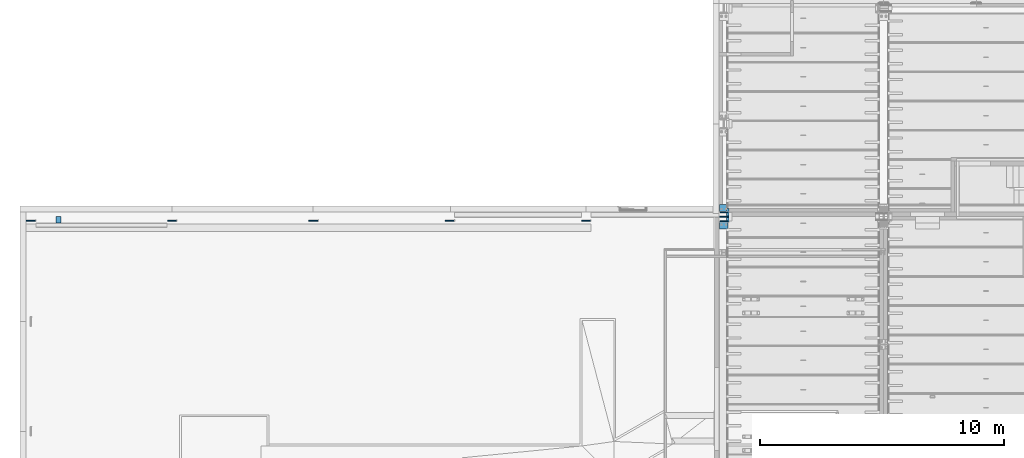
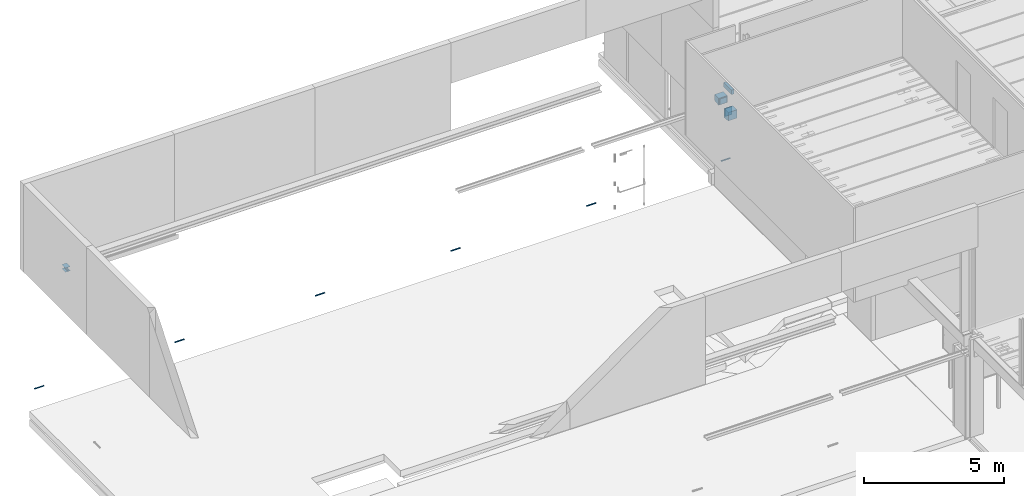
# One storey, part 23 of 230: 12 beams.
"""IFC4X3_ADD2 building model written with IfcOpenShell, lengths in millimetres."""

from ifc_helpers import new_model, entity, si_unit, direction, frame, frame_2d, origin_with_axes, place, context, subcontext, project, spatial, rectangle, hollow_circle, i_section, extrude, material, element, save


model = new_model("IFC4X3_ADD2")

# Units and contexts
model_context = context("Model", 3, precision=1e-05, world=origin_with_axes(), true_north=direction((0.0, 1.0)))
body_context = subcontext(model_context, "Body", "Model", "MODEL_VIEW")
ifc_project = project(units=[si_unit("LENGTHUNIT", "METRE", prefix="MILLI"), si_unit("AREAUNIT", "SQUARE_METRE"), si_unit("VOLUMEUNIT", "CUBIC_METRE"), si_unit("PLANEANGLEUNIT", "RADIAN"), si_unit("TIMEUNIT", "SECOND"), si_unit("MASSUNIT", "GRAM")], contexts=[model_context])

# Site, building, storey
site_placement = place(None, origin_with_axes())
site = spatial("IfcSite", under=ifc_project, at=site_placement, Name="Site", CompositionType="ELEMENT")
building_placement = place(site_placement, origin_with_axes())
building = spatial("IfcBuilding", under=site, at=building_placement, Name="IFC Building Story")
storey_placement = place(building_placement, origin_with_axes())
storey = spatial("IfcBuildingStorey", under=building, at=storey_placement, Name="ETAGE 00 (0)", Elevation=0.0)

# Beams
ifc_material_1 = material(Name="STEEL/Accessory_C50/60 64192")
beam_1_placement = place(storey_placement, frame((33581.188, 18150.0, 3540.0), z_axis=(-1.0, 0.0, 0.0), x_axis=(0.0, 0.0, 1.0)))
element("IfcBeam", 1, at=beam_1_placement, inside=storey, material=ifc_material_1, Name="BEK1", ObjectType="CORBEL300-300-260", context=body_context, shape_type="SweptSolid", body=[
    extrude(entity("IfcTrapeziumProfileDef", "AREA", None, entity("IfcAxis2Placement2D", entity("IfcCartesianPoint", [0.0, 5.95523630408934e-12]), entity("IfcDirection", [1.0, 0.0])), 300.0, 260.0, 300.0, 40.0), origin_with_axes(), (0.0, 0.0, 1.0), 360.0),
])
beam_2_placement = place(storey_placement, frame((33221.188, 17460.0, 3290.0), z_axis=(1.0, 0.0, 0.0), x_axis=(0.0, 0.0, 1.0)))
element("IfcBeam", 2, at=beam_2_placement, inside=storey, material=ifc_material_1, Name="BEK1", ObjectType="CORBEL400-300-360", context=body_context, shape_type="SweptSolid", body=[
    extrude(entity("IfcTrapeziumProfileDef", "AREA", None, entity("IfcAxis2Placement2D", entity("IfcCartesianPoint", [0.0, 5.95523630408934e-12]), entity("IfcDirection", [1.0, 0.0])), 400.0, 360.0, 300.0, 40.0), origin_with_axes(), (0.0, 0.0, 1.0), 360.0),
])
ifc_material_2 = material(Name="BS_28_Métal")
beam_3_placement = place(storey_placement, frame((6090.189478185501, 17550.01425584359, 6000.000000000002), z_axis=(0.0, 1.0, 0.0), x_axis=(-1.0, 0.0, 0.0)))
element("IfcBeam", 3, at=beam_3_placement, inside=storey, material=ifc_material_2, Name="BS_28_SF_LE_HE-A:HEA200", ObjectType="HEA200 2", context=body_context, shape_type="SweptSolid", body=[
    extrude(i_section(OverallWidth=200.0, OverallDepth=190.0, WebThickness=6.50000000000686, FlangeThickness=10.0000000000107, FilletRadius=18.0000000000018, at=frame_2d((0.0, 5.95523630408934e-12), x_axis=(1.0, 0.0))), origin_with_axes(), (0.0, 0.0, 1.0), 259.7000000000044),
])
ifc_material_3 = material(Name="STEEL/Accessory_EPS")
beam_4_placement = place(storey_placement, frame((33551.188, 17985.0, 3545.00000000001), z_axis=(-1.0, 0.0, 0.0), x_axis=(0.0, 0.0, -1.0)))
element("IfcBeam", 4, at=beam_4_placement, inside=storey, material=ifc_material_3, Name="POL4", ObjectType="30*300", context=body_context, shape_type="SweptSolid", body=[
    extrude(rectangle(XDim=250.0, YDim=30.0000000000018, at=frame_2d((0.0, 5.95523630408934e-12), x_axis=(1.0, 0.0))), origin_with_axes(), (0.0, 0.0, 1.0), 300.0),
])
beam_5_placement = place(storey_placement, frame((33551.188, 17625.0, 3295.0), z_axis=(-1.0, 0.0, 0.0), x_axis=(0.0, 0.0, -1.0)))
element("IfcBeam", 5, at=beam_5_placement, inside=storey, material=ifc_material_3, Name="POL4", ObjectType="30*300 2", context=body_context, shape_type="SweptSolid", body=[
    extrude(rectangle(XDim=350.0, YDim=29.9999999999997, at=frame_2d((0.0, 5.95523630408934e-12), x_axis=(1.0, 0.0))), origin_with_axes(), (0.0, 0.0, 1.0), 300.0),
])
ifc_material_4 = material(Name="STEEL/Accessory_PVC")
beam_6_placement = place(storey_placement, frame((33209.1880000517, 17805.0, 1080.0), z_axis=(1.0, 0.0, 0.0), x_axis=(0.0, 0.0, -1.0)))
element("IfcBeam", 6, at=beam_6_placement, inside=storey, material=ifc_material_4, Name="PS13", ObjectType="O56*3", context=body_context, shape_type="SweptSolid", body=[
    extrude(hollow_circle(Radius=28.0, WallThickness=3.0, at=frame_2d((0.0, 5.95523630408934e-12), x_axis=(1.0, 0.0))), origin_with_axes(), (0.0, 0.0, 1.0), 384.0),
])
ifc_material_5 = material(Name="STEEL/Accessory_invisible")
beam_7_placement = place(storey_placement, frame((33516.1890000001, 17870.0009155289, 4099.9999909), z_axis=(1.0, 0.0, 0.0), x_axis=(0.0, 0.0, -1.0)))
element("IfcBeam", 7, at=beam_7_placement, inside=storey, material=ifc_material_5, Name="ES32", ObjectType="200*560", context=body_context, shape_type="SweptSolid", body=[
    extrude(rectangle(XDim=200.0, YDim=560.0, at=frame_2d((0.0, 5.95523630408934e-12), x_axis=(1.0, 0.0))), origin_with_axes(), (0.0, 0.0, 1.0), 100.0),
])
beam_8_placement = place(storey_placement, frame((4769.18934816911, 17649.9997253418, 1190.0), z_axis=(1.0, 0.0, 0.0), x_axis=(0.0, 0.0, -1.0)))
element("IfcBeam", 8, at=beam_8_placement, inside=storey, material=ifc_material_4, Name="PS13", ObjectType="O56*3", context=body_context, shape_type="SweptSolid", body=[
    extrude(hollow_circle(Radius=28.0, WallThickness=3.0, at=frame_2d((0.0, 5.95523630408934e-12), x_axis=(1.0, 0.0))), origin_with_axes(), (0.0, 0.0, 1.0), 383.9999999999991),
])
beam_9_placement = place(storey_placement, frame((10564.1886361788, 17649.9997253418, 1190.0), z_axis=(1.0, 0.0, 0.0), x_axis=(0.0, 0.0, -1.0)))
element("IfcBeam", 9, at=beam_9_placement, inside=storey, material=ifc_material_4, Name="PS13", ObjectType="O56*3", context=body_context, shape_type="SweptSolid", body=[
    extrude(hollow_circle(Radius=28.0, WallThickness=3.0, at=frame_2d((0.0, 5.95523630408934e-12), x_axis=(1.0, 0.0))), origin_with_axes(), (0.0, 0.0, 1.0), 383.9999999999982),
])
for number, where, z_axis, x_axis, name in (
    (10, (16364.1888269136, 17649.9997253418, 1190.0), (1.0, 0.0, 0.0), (0.0, 0.0, -1.0), "PS13"),
    (11, (21964.1892083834, 17649.9997253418, 1190.0), (1.0, 0.0, 0.0), (0.0, 0.0, -1.0), "PS13"),
):
    element("IfcBeam", number, at=place(storey_placement, frame(where, z_axis=z_axis, x_axis=x_axis)), inside=storey, material=ifc_material_4, Name=name, ObjectType="O56*3", context=body_context, shape_type="SweptSolid", body=[
        extrude(hollow_circle(Radius=28.0, WallThickness=3.0, at=frame_2d((0.0, 5.95523630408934e-12), x_axis=(1.0, 0.0))), origin_with_axes(), (0.0, 0.0, 1.0), 384.0),
    ])
beam_10_placement = place(storey_placement, frame((27564.1886361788, 17649.9997253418, 1190.0), z_axis=(1.0, 0.0, 0.0), x_axis=(0.0, 0.0, -1.0)))
element("IfcBeam", 12, at=beam_10_placement, inside=storey, material=ifc_material_4, Name="PS13", ObjectType="O56*3", context=body_context, shape_type="SweptSolid", body=[
    extrude(hollow_circle(Radius=28.0, WallThickness=3.0, at=frame_2d((0.0, 5.95523630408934e-12), x_axis=(1.0, 0.0))), origin_with_axes(), (0.0, 0.0, 1.0), 383.9999999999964),
])

save(model, "model.ifc")
